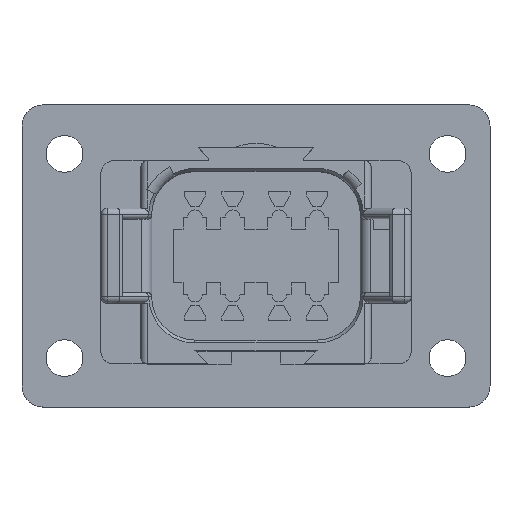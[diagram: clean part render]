
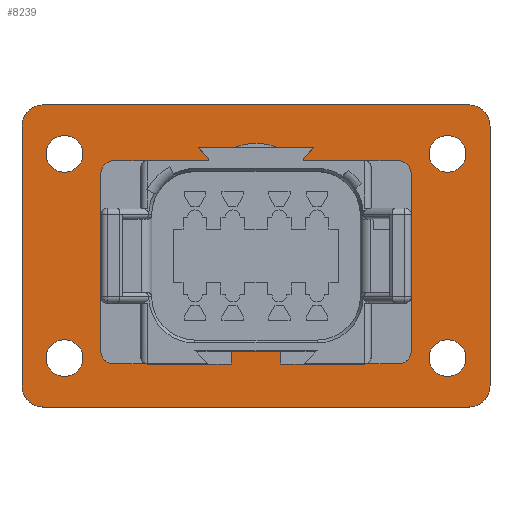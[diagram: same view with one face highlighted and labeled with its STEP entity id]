
A CAD part, top view. The second image highlights one B-rep face of the part: STEP entity #8239.
In plain terms, the highlighted planar face has unit normal (0, 0, 1).
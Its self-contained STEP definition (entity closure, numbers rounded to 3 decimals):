
#387=DIRECTION('',(0.,-1.,0.));
#388=VECTOR('',#387,22.376);
#389=CARTESIAN_POINT('',(-13.526,10.426,-21.666));
#390=LINE('',#389,#388);
#473=DIRECTION('',(1.,0.,0.));
#474=VECTOR('',#473,9.855);
#475=CARTESIAN_POINT('',(-12.776,-12.7,-21.666));
#476=LINE('',#475,#474);
#508=DIRECTION('',(1.,0.,0.));
#509=VECTOR('',#508,9.855);
#510=CARTESIAN_POINT('',(2.921,-12.7,-21.666));
#511=LINE('',#510,#509);
#543=CARTESIAN_POINT('',(22.505,12.002,-21.666));
#544=DIRECTION('',(0.,0.,-1.));
#545=DIRECTION('',(0.,1.,0.));
#546=AXIS2_PLACEMENT_3D('',#543,#544,#545);
#551=CARTESIAN_POINT('',(22.505,12.002,-21.666));
#552=DIRECTION('',(0.,0.,-1.));
#553=DIRECTION('',(0.,-1.,0.));
#554=AXIS2_PLACEMENT_3D('',#551,#552,#553);
#559=CARTESIAN_POINT('',(-22.505,12.002,-21.666));
#560=DIRECTION('',(0.,0.,-1.));
#561=DIRECTION('',(0.,1.,0.));
#562=AXIS2_PLACEMENT_3D('',#559,#560,#561);
#567=CARTESIAN_POINT('',(-22.505,12.002,-21.666));
#568=DIRECTION('',(0.,0.,-1.));
#569=DIRECTION('',(0.,-1.,0.));
#570=AXIS2_PLACEMENT_3D('',#567,#568,#569);
#575=CARTESIAN_POINT('',(-22.505,-12.002,-21.666));
#576=DIRECTION('',(0.,0.,-1.));
#577=DIRECTION('',(0.,1.,0.));
#578=AXIS2_PLACEMENT_3D('',#575,#576,#577);
#583=CARTESIAN_POINT('',(-22.505,-12.002,-21.666));
#584=DIRECTION('',(0.,0.,-1.));
#585=DIRECTION('',(0.,-1.,0.));
#586=AXIS2_PLACEMENT_3D('',#583,#584,#585);
#591=CARTESIAN_POINT('',(22.505,-12.002,-21.666));
#592=DIRECTION('',(0.,0.,-1.));
#593=DIRECTION('',(0.,1.,0.));
#594=AXIS2_PLACEMENT_3D('',#591,#592,#593);
#599=CARTESIAN_POINT('',(22.505,-12.002,-21.666));
#600=DIRECTION('',(0.,0.,-1.));
#601=DIRECTION('',(0.,-1.,0.));
#602=AXIS2_PLACEMENT_3D('',#599,#600,#601);
#607=CARTESIAN_POINT('',(-24.996,15.255,-21.666));
#608=DIRECTION('',(0.,0.,1.));
#609=DIRECTION('',(0.,1.,0.));
#610=AXIS2_PLACEMENT_3D('',#607,#608,#609);
#615=CARTESIAN_POINT('',(24.996,15.255,-21.666));
#616=DIRECTION('',(0.,0.,1.));
#617=DIRECTION('',(1.,0.,0.));
#618=AXIS2_PLACEMENT_3D('',#615,#616,#617);
#623=CARTESIAN_POINT('',(24.996,-15.255,-21.666));
#624=DIRECTION('',(0.,0.,1.));
#625=DIRECTION('',(0.,-1.,0.));
#626=AXIS2_PLACEMENT_3D('',#623,#624,#625);
#631=CARTESIAN_POINT('',(-24.996,-15.255,-21.666));
#632=DIRECTION('',(0.,0.,1.));
#633=DIRECTION('',(-1.,0.,0.));
#634=AXIS2_PLACEMENT_3D('',#631,#632,#633);
#639=DIRECTION('',(0.,1.,0.));
#640=VECTOR('',#639,30.509);
#641=CARTESIAN_POINT('',(-27.496,-15.255,-21.666));
#642=LINE('',#641,#640);
#646=DIRECTION('',(-1.,0.,0.));
#647=VECTOR('',#646,25.551);
#648=CARTESIAN_POINT('',(12.776,11.176,-21.666));
#649=LINE('',#648,#647);
#709=CARTESIAN_POINT('',(12.776,10.426,-21.666));
#710=DIRECTION('',(0.,0.,-1.));
#711=DIRECTION('',(0.,1.,0.));
#712=AXIS2_PLACEMENT_3D('',#709,#710,#711);
#781=DIRECTION('',(0.,1.,0.));
#782=VECTOR('',#781,22.376);
#783=CARTESIAN_POINT('',(13.526,-11.95,-21.666));
#784=LINE('',#783,#782);
#1334=CARTESIAN_POINT('',(-12.776,-11.95,-21.666));
#1335=DIRECTION('',(0.,0.,-1.));
#1336=DIRECTION('',(0.,-1.,0.));
#1337=AXIS2_PLACEMENT_3D('',#1334,#1335,#1336);
#1350=CARTESIAN_POINT('',(-12.776,10.426,-21.666));
#1351=DIRECTION('',(0.,0.,-1.));
#1352=DIRECTION('',(-1.,0.,0.));
#1353=AXIS2_PLACEMENT_3D('',#1350,#1351,#1352);
#3198=CARTESIAN_POINT('',(12.776,-11.95,-21.666));
#3199=DIRECTION('',(0.,0.,-1.));
#3200=DIRECTION('',(1.,0.,0.));
#3201=AXIS2_PLACEMENT_3D('',#3198,#3199,#3200);
#5165=DIRECTION('',(0.,-1.,0.));
#5166=VECTOR('',#5165,1.524);
#5167=CARTESIAN_POINT('',(-2.921,-11.176,-21.666));
#5168=LINE('',#5167,#5166);
#5214=DIRECTION('',(1.,0.,0.));
#5215=VECTOR('',#5214,5.842);
#5216=CARTESIAN_POINT('',(-2.921,-11.176,-21.666));
#5217=LINE('',#5216,#5215);
#5270=DIRECTION('',(0.,1.,0.));
#5271=VECTOR('',#5270,1.524);
#5272=CARTESIAN_POINT('',(2.921,-12.7,-21.666));
#5273=LINE('',#5272,#5271);
#6683=DIRECTION('',(1.,0.,0.));
#6684=VECTOR('',#6683,49.991);
#6685=CARTESIAN_POINT('',(-24.996,-17.755,-21.666));
#6686=LINE('',#6685,#6684);
#6718=DIRECTION('',(0.,1.,0.));
#6719=VECTOR('',#6718,30.509);
#6720=CARTESIAN_POINT('',(27.496,-15.255,-21.666));
#6721=LINE('',#6720,#6719);
#6746=DIRECTION('',(1.,0.,0.));
#6747=VECTOR('',#6746,49.991);
#6748=CARTESIAN_POINT('',(-24.996,17.755,-21.666));
#6749=LINE('',#6748,#6747);
#7666=CARTESIAN_POINT('',(12.776,11.176,-21.666));
#7667=CARTESIAN_POINT('',(-12.776,11.176,-21.666));
#7668=VERTEX_POINT('',#7666);
#7669=VERTEX_POINT('',#7667);
#7670=CARTESIAN_POINT('',(-13.526,10.426,-21.666));
#7671=CARTESIAN_POINT('',(-13.526,-11.95,-21.666));
#7672=VERTEX_POINT('',#7670);
#7673=VERTEX_POINT('',#7671);
#7674=CARTESIAN_POINT('',(-12.776,-12.7,-21.666));
#7675=CARTESIAN_POINT('',(-2.921,-12.7,-21.666));
#7676=VERTEX_POINT('',#7674);
#7677=VERTEX_POINT('',#7675);
#7678=CARTESIAN_POINT('',(2.921,-12.7,-21.666));
#7679=CARTESIAN_POINT('',(12.776,-12.7,-21.666));
#7680=VERTEX_POINT('',#7678);
#7681=VERTEX_POINT('',#7679);
#7682=CARTESIAN_POINT('',(-2.921,-11.176,-21.666));
#7683=CARTESIAN_POINT('',(2.921,-11.176,-21.666));
#7684=VERTEX_POINT('',#7682);
#7685=VERTEX_POINT('',#7683);
#7686=CARTESIAN_POINT('',(13.526,-11.95,-21.666));
#7687=CARTESIAN_POINT('',(13.526,10.426,-21.666));
#7688=VERTEX_POINT('',#7686);
#7689=VERTEX_POINT('',#7687);
#7706=CARTESIAN_POINT('',(22.505,14.161,-21.666));
#7707=CARTESIAN_POINT('',(22.505,9.843,-21.666));
#7708=VERTEX_POINT('',#7706);
#7709=VERTEX_POINT('',#7707);
#7710=CARTESIAN_POINT('',(-22.505,14.161,-21.666));
#7711=CARTESIAN_POINT('',(-22.505,9.843,-21.666));
#7712=VERTEX_POINT('',#7710);
#7713=VERTEX_POINT('',#7711);
#7714=CARTESIAN_POINT('',(-22.505,-9.843,-21.666));
#7715=CARTESIAN_POINT('',(-22.505,-14.161,-21.666));
#7716=VERTEX_POINT('',#7714);
#7717=VERTEX_POINT('',#7715);
#7718=CARTESIAN_POINT('',(22.505,-9.843,-21.666));
#7719=CARTESIAN_POINT('',(22.505,-14.161,-21.666));
#7720=VERTEX_POINT('',#7718);
#7721=VERTEX_POINT('',#7719);
#7738=CARTESIAN_POINT('',(-24.996,17.755,-21.666));
#7739=CARTESIAN_POINT('',(-27.496,15.255,-21.666));
#7740=VERTEX_POINT('',#7738);
#7741=VERTEX_POINT('',#7739);
#7750=CARTESIAN_POINT('',(-27.496,-15.255,-21.666));
#7751=VERTEX_POINT('',#7750);
#7752=CARTESIAN_POINT('',(-24.996,-17.755,-21.666));
#7753=VERTEX_POINT('',#7752);
#7758=CARTESIAN_POINT('',(27.496,15.255,-21.666));
#7759=VERTEX_POINT('',#7758);
#7760=CARTESIAN_POINT('',(24.996,17.755,-21.666));
#7761=VERTEX_POINT('',#7760);
#7762=CARTESIAN_POINT('',(24.996,-17.755,-21.666));
#7763=CARTESIAN_POINT('',(27.496,-15.255,-21.666));
#7764=VERTEX_POINT('',#7762);
#7765=VERTEX_POINT('',#7763);
#8169=CARTESIAN_POINT('',(-27.496,-17.755,-21.666));
#8170=DIRECTION('',(0.,0.,1.));
#8171=DIRECTION('',(1.,0.,0.));
#8172=AXIS2_PLACEMENT_3D('',#8169,#8170,#8171);
#8173=PLANE('',#8172);
#8175=ORIENTED_EDGE('',*,*,#8174,.F.);
#8177=ORIENTED_EDGE('',*,*,#8176,.T.);
#8179=ORIENTED_EDGE('',*,*,#8178,.F.);
#8181=ORIENTED_EDGE('',*,*,#8180,.F.);
#8183=ORIENTED_EDGE('',*,*,#8182,.F.);
#8185=ORIENTED_EDGE('',*,*,#8184,.F.);
#8187=ORIENTED_EDGE('',*,*,#8186,.F.);
#8189=ORIENTED_EDGE('',*,*,#8188,.T.);
#8190=EDGE_LOOP('',(#8175,#8177,#8179,#8181,#8183,#8185,#8187,#8189));
#8191=FACE_OUTER_BOUND('',#8190,.F.);
#8193=ORIENTED_EDGE('',*,*,#8192,.T.);
#8195=ORIENTED_EDGE('',*,*,#8194,.F.);
#8196=ORIENTED_EDGE('',*,*,#8065,.T.);
#8198=ORIENTED_EDGE('',*,*,#8197,.F.);
#8199=ORIENTED_EDGE('',*,*,#8122,.T.);
#8201=ORIENTED_EDGE('',*,*,#8200,.F.);
#8203=ORIENTED_EDGE('',*,*,#8202,.T.);
#8205=ORIENTED_EDGE('',*,*,#8204,.F.);
#8206=ORIENTED_EDGE('',*,*,#8147,.T.);
#8208=ORIENTED_EDGE('',*,*,#8207,.F.);
#8210=ORIENTED_EDGE('',*,*,#8209,.T.);
#8212=ORIENTED_EDGE('',*,*,#8211,.F.);
#8213=EDGE_LOOP('',(#8193,#8195,#8196,#8198,#8199,#8201,#8203,#8205,#8206,#8208,
#8210,#8212));
#8214=FACE_BOUND('',#8213,.F.);
#8216=ORIENTED_EDGE('',*,*,#8215,.F.);
#8218=ORIENTED_EDGE('',*,*,#8217,.F.);
#8219=EDGE_LOOP('',(#8216,#8218));
#8220=FACE_BOUND('',#8219,.F.);
#8222=ORIENTED_EDGE('',*,*,#8221,.F.);
#8224=ORIENTED_EDGE('',*,*,#8223,.F.);
#8225=EDGE_LOOP('',(#8222,#8224));
#8226=FACE_BOUND('',#8225,.F.);
#8228=ORIENTED_EDGE('',*,*,#8227,.F.);
#8230=ORIENTED_EDGE('',*,*,#8229,.F.);
#8231=EDGE_LOOP('',(#8228,#8230));
#8232=FACE_BOUND('',#8231,.F.);
#8234=ORIENTED_EDGE('',*,*,#8233,.F.);
#8236=ORIENTED_EDGE('',*,*,#8235,.F.);
#8237=EDGE_LOOP('',(#8234,#8236));
#8238=FACE_BOUND('',#8237,.F.);
#8239=ADVANCED_FACE('',(#8191,#8214,#8220,#8226,#8232,#8238),#8173,.T.);
#547=CIRCLE('',#546,2.159);
#555=CIRCLE('',#554,2.159);
#563=CIRCLE('',#562,2.159);
#571=CIRCLE('',#570,2.159);
#579=CIRCLE('',#578,2.159);
#587=CIRCLE('',#586,2.159);
#595=CIRCLE('',#594,2.159);
#603=CIRCLE('',#602,2.159);
#611=CIRCLE('',#610,2.5);
#619=CIRCLE('',#618,2.5);
#627=CIRCLE('',#626,2.5);
#635=CIRCLE('',#634,2.5);
#713=CIRCLE('',#712,0.75);
#1338=CIRCLE('',#1337,0.75);
#1354=CIRCLE('',#1353,0.75);
#3202=CIRCLE('',#3201,0.75);
#8065=EDGE_CURVE('',#7672,#7673,#390,.T.);
#8122=EDGE_CURVE('',#7676,#7677,#476,.T.);
#8147=EDGE_CURVE('',#7680,#7681,#511,.T.);
#8174=EDGE_CURVE('',#7740,#7741,#611,.T.);
#8176=EDGE_CURVE('',#7740,#7761,#6749,.T.);
#8178=EDGE_CURVE('',#7759,#7761,#619,.T.);
#8180=EDGE_CURVE('',#7765,#7759,#6721,.T.);
#8182=EDGE_CURVE('',#7764,#7765,#627,.T.);
#8184=EDGE_CURVE('',#7753,#7764,#6686,.T.);
#8186=EDGE_CURVE('',#7751,#7753,#635,.T.);
#8188=EDGE_CURVE('',#7751,#7741,#642,.T.);
#8192=EDGE_CURVE('',#7668,#7669,#649,.T.);
#8194=EDGE_CURVE('',#7672,#7669,#1354,.T.);
#8197=EDGE_CURVE('',#7676,#7673,#1338,.T.);
#8200=EDGE_CURVE('',#7684,#7677,#5168,.T.);
#8202=EDGE_CURVE('',#7684,#7685,#5217,.T.);
#8204=EDGE_CURVE('',#7680,#7685,#5273,.T.);
#8207=EDGE_CURVE('',#7688,#7681,#3202,.T.);
#8209=EDGE_CURVE('',#7688,#7689,#784,.T.);
#8211=EDGE_CURVE('',#7668,#7689,#713,.T.);
#8215=EDGE_CURVE('',#7708,#7709,#547,.T.);
#8217=EDGE_CURVE('',#7709,#7708,#555,.T.);
#8221=EDGE_CURVE('',#7712,#7713,#563,.T.);
#8223=EDGE_CURVE('',#7713,#7712,#571,.T.);
#8227=EDGE_CURVE('',#7716,#7717,#579,.T.);
#8229=EDGE_CURVE('',#7717,#7716,#587,.T.);
#8233=EDGE_CURVE('',#7720,#7721,#595,.T.);
#8235=EDGE_CURVE('',#7721,#7720,#603,.T.);
